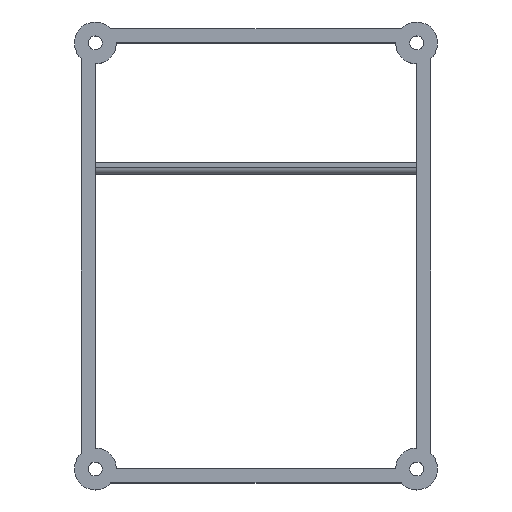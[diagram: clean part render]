
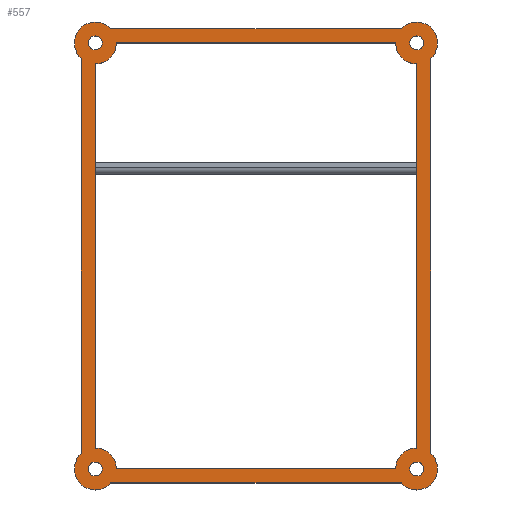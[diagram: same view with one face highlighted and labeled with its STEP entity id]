
A CAD part, top view. The second image highlights one B-rep face of the part: STEP entity #557.
In plain terms, the highlighted planar face has unit normal (0, 0, 1).
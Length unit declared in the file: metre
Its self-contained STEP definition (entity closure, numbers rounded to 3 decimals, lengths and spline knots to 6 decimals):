
#33=LINE('',#818,#78);
#37=LINE('',#827,#82);
#42=LINE('',#841,#87);
#46=LINE('',#855,#91);
#50=LINE('',#869,#95);
#53=LINE('',#876,#98);
#58=LINE('',#893,#103);
#64=LINE('',#912,#109);
#78=VECTOR('',#650,1.);
#82=VECTOR('',#656,1.);
#87=VECTOR('',#669,1.);
#91=VECTOR('',#683,1.);
#95=VECTOR('',#697,1.);
#98=VECTOR('',#702,1.);
#103=VECTOR('',#721,1.);
#109=VECTOR('',#737,1.);
#203=ORIENTED_EDGE('',*,*,#303,.F.);
#204=ORIENTED_EDGE('',*,*,#306,.T.);
#205=ORIENTED_EDGE('',*,*,#275,.F.);
#206=ORIENTED_EDGE('',*,*,#309,.T.);
#207=ORIENTED_EDGE('',*,*,#312,.T.);
#208=ORIENTED_EDGE('',*,*,#315,.T.);
#209=ORIENTED_EDGE('',*,*,#321,.T.);
#210=ORIENTED_EDGE('',*,*,#334,.T.);
#211=ORIENTED_EDGE('',*,*,#279,.T.);
#212=ORIENTED_EDGE('',*,*,#283,.T.);
#213=ORIENTED_EDGE('',*,*,#286,.F.);
#214=ORIENTED_EDGE('',*,*,#290,.T.);
#215=ORIENTED_EDGE('',*,*,#293,.F.);
#216=ORIENTED_EDGE('',*,*,#296,.T.);
#217=ORIENTED_EDGE('',*,*,#300,.T.);
#218=ORIENTED_EDGE('',*,*,#332,.T.);
#219=ORIENTED_EDGE('',*,*,#329,.T.);
#220=ORIENTED_EDGE('',*,*,#327,.F.);
#221=ORIENTED_EDGE('',*,*,#325,.T.);
#222=ORIENTED_EDGE('',*,*,#335,.F.);
#275=EDGE_CURVE('',#350,#351,#33,.T.);
#279=EDGE_CURVE('',#355,#354,#37,.T.);
#283=EDGE_CURVE('',#354,#357,#399,.T.);
#286=EDGE_CURVE('',#359,#357,#42,.T.);
#290=EDGE_CURVE('',#359,#362,#402,.T.);
#293=EDGE_CURVE('',#364,#362,#46,.T.);
#296=EDGE_CURVE('',#364,#366,#404,.T.);
#300=EDGE_CURVE('',#366,#369,#50,.T.);
#303=EDGE_CURVE('',#372,#373,#53,.T.);
#306=EDGE_CURVE('',#372,#351,#407,.T.);
#309=EDGE_CURVE('',#350,#375,#409,.T.);
#312=EDGE_CURVE('',#375,#377,#58,.T.);
#315=EDGE_CURVE('',#377,#379,#411,.T.);
#321=EDGE_CURVE('',#379,#385,#64,.T.);
#325=EDGE_CURVE('',#388,#388,#414,.T.);
#327=EDGE_CURVE('',#390,#390,#416,.T.);
#329=EDGE_CURVE('',#392,#392,#418,.T.);
#332=EDGE_CURVE('',#369,#355,#421,.T.);
#334=EDGE_CURVE('',#385,#373,#423,.T.);
#335=EDGE_CURVE('',#394,#394,#424,.T.);
#350=VERTEX_POINT('',#817);
#351=VERTEX_POINT('',#819);
#354=VERTEX_POINT('',#826);
#355=VERTEX_POINT('',#828);
#357=VERTEX_POINT('',#834);
#359=VERTEX_POINT('',#840);
#362=VERTEX_POINT('',#848);
#364=VERTEX_POINT('',#854);
#366=VERTEX_POINT('',#860);
#369=VERTEX_POINT('',#868);
#372=VERTEX_POINT('',#875);
#373=VERTEX_POINT('',#877);
#375=VERTEX_POINT('',#886);
#377=VERTEX_POINT('',#892);
#379=VERTEX_POINT('',#898);
#385=VERTEX_POINT('',#911);
#388=VERTEX_POINT('',#920);
#390=VERTEX_POINT('',#925);
#392=VERTEX_POINT('',#930);
#394=VERTEX_POINT('',#941);
#399=CIRCLE('',#584,0.006);
#402=CIRCLE('',#589,0.006);
#404=CIRCLE('',#593,0.006);
#407=CIRCLE('',#599,0.006);
#409=CIRCLE('',#602,0.006);
#411=CIRCLE('',#606,0.006);
#414=CIRCLE('',#611,0.002);
#416=CIRCLE('',#614,0.002);
#418=CIRCLE('',#617,0.002);
#421=CIRCLE('',#621,0.006);
#423=CIRCLE('',#624,0.006);
#424=CIRCLE('',#626,0.002);
#454=EDGE_LOOP('',(#203,#204,#205,#206,#207,#208,#209,#210));
#455=EDGE_LOOP('',(#211,#212,#213,#214,#215,#216,#217,#218));
#456=EDGE_LOOP('',(#219));
#457=EDGE_LOOP('',(#220));
#458=EDGE_LOOP('',(#221));
#459=EDGE_LOOP('',(#222));
#503=FACE_BOUND('',#454,.T.);
#504=FACE_BOUND('',#455,.T.);
#505=FACE_BOUND('',#456,.T.);
#506=FACE_BOUND('',#457,.T.);
#507=FACE_BOUND('',#458,.T.);
#508=FACE_BOUND('',#459,.T.);
#532=PLANE('',#628);
#557=ADVANCED_FACE('',(#503,#504,#505,#506,#507,#508),#532,.T.);
#584=AXIS2_PLACEMENT_3D('',#835,#663,#664);
#589=AXIS2_PLACEMENT_3D('',#849,#677,#678);
#593=AXIS2_PLACEMENT_3D('',#861,#689,#690);
#599=AXIS2_PLACEMENT_3D('',#881,#708,#709);
#602=AXIS2_PLACEMENT_3D('',#887,#715,#716);
#606=AXIS2_PLACEMENT_3D('',#899,#727,#728);
#611=AXIS2_PLACEMENT_3D('',#919,#744,#745);
#614=AXIS2_PLACEMENT_3D('',#924,#750,#751);
#617=AXIS2_PLACEMENT_3D('',#929,#756,#757);
#621=AXIS2_PLACEMENT_3D('',#935,#764,#765);
#624=AXIS2_PLACEMENT_3D('',#938,#770,#771);
#626=AXIS2_PLACEMENT_3D('',#940,#774,#775);
#628=AXIS2_PLACEMENT_3D('',#944,#778,#779);
#650=DIRECTION('',(0.,-1.,0.));
#656=DIRECTION('',(1.,0.,0.));
#663=DIRECTION('',(0.,0.,1.));
#664=DIRECTION('',(1.,0.,0.));
#669=DIRECTION('',(0.,-1.,0.));
#677=DIRECTION('',(0.,0.,1.));
#678=DIRECTION('',(1.,0.,0.));
#683=DIRECTION('',(1.,0.,0.));
#689=DIRECTION('',(0.,0.,1.));
#690=DIRECTION('',(1.,0.,0.));
#697=DIRECTION('',(0.,-1.,0.));
#702=DIRECTION('',(1.,0.,0.));
#708=DIRECTION('',(0.,0.,1.));
#709=DIRECTION('',(1.,0.,0.));
#715=DIRECTION('',(0.,0.,1.));
#716=DIRECTION('',(1.,0.,0.));
#721=DIRECTION('',(1.,0.,0.));
#727=DIRECTION('',(0.,0.,1.));
#728=DIRECTION('',(1.,0.,0.));
#737=DIRECTION('',(0.,-1.,0.));
#744=DIRECTION('',(0.,0.,-1.));
#745=DIRECTION('',(1.,0.,0.));
#750=DIRECTION('',(0.,0.,1.));
#751=DIRECTION('',(1.,0.,0.));
#756=DIRECTION('',(0.,0.,-1.));
#757=DIRECTION('',(1.,0.,0.));
#764=DIRECTION('',(0.,0.,1.));
#765=DIRECTION('',(1.,0.,0.));
#770=DIRECTION('',(0.,0.,1.));
#771=DIRECTION('',(1.,0.,0.));
#774=DIRECTION('',(0.,0.,1.));
#775=DIRECTION('',(1.,0.,0.));
#778=DIRECTION('',(0.,0.,1.));
#779=DIRECTION('',(1.,0.,0.));
#817=CARTESIAN_POINT('',(-0.046,0.054,0.026));
#818=CARTESIAN_POINT('',(-0.046,-0.001,0.026));
#819=CARTESIAN_POINT('',(-0.046,-0.056,0.026));
#826=CARTESIAN_POINT('',(0.041528,-0.066,0.026));
#827=CARTESIAN_POINT('',(0.,-0.066,0.026));
#828=CARTESIAN_POINT('',(-0.041528,-0.066,0.026));
#834=CARTESIAN_POINT('',(0.05,-0.057528,0.026));
#835=CARTESIAN_POINT('',(0.046,-0.062,0.026));
#840=CARTESIAN_POINT('',(0.05,0.055528,0.026));
#841=CARTESIAN_POINT('',(0.05,-0.001,0.026));
#848=CARTESIAN_POINT('',(0.041528,0.064,0.026));
#849=CARTESIAN_POINT('',(0.046,0.06,0.026));
#854=CARTESIAN_POINT('',(-0.041528,0.064,0.026));
#855=CARTESIAN_POINT('',(0.,0.064,0.026));
#860=CARTESIAN_POINT('',(-0.05,0.055528,0.026));
#861=CARTESIAN_POINT('',(-0.046,0.06,0.026));
#868=CARTESIAN_POINT('',(-0.05,-0.057528,0.026));
#869=CARTESIAN_POINT('',(-0.05,-0.001,0.026));
#875=CARTESIAN_POINT('',(-0.04,-0.062,0.026));
#876=CARTESIAN_POINT('',(0.,-0.062,0.026));
#877=CARTESIAN_POINT('',(0.04,-0.062,0.026));
#881=CARTESIAN_POINT('',(-0.046,-0.062,0.026));
#886=CARTESIAN_POINT('',(-0.04,0.06,0.026));
#887=CARTESIAN_POINT('',(-0.046,0.06,0.026));
#892=CARTESIAN_POINT('',(0.04,0.06,0.026));
#893=CARTESIAN_POINT('',(0.,0.06,0.026));
#898=CARTESIAN_POINT('',(0.046,0.054,0.026));
#899=CARTESIAN_POINT('',(0.046,0.06,0.026));
#911=CARTESIAN_POINT('',(0.046,-0.056,0.026));
#912=CARTESIAN_POINT('',(0.046,-0.001,0.026));
#919=CARTESIAN_POINT('',(0.046,0.06,0.026));
#920=CARTESIAN_POINT('',(0.048,0.06,0.026));
#924=CARTESIAN_POINT('',(0.046,-0.062,0.026));
#925=CARTESIAN_POINT('',(0.048,-0.062,0.026));
#929=CARTESIAN_POINT('',(-0.046,-0.062,0.026));
#930=CARTESIAN_POINT('',(-0.044,-0.062,0.026));
#935=CARTESIAN_POINT('',(-0.046,-0.062,0.026));
#938=CARTESIAN_POINT('',(0.046,-0.062,0.026));
#940=CARTESIAN_POINT('',(-0.046,0.06,0.026));
#941=CARTESIAN_POINT('',(-0.044,0.06,0.026));
#944=CARTESIAN_POINT('',(0.,-0.001438,0.026));
